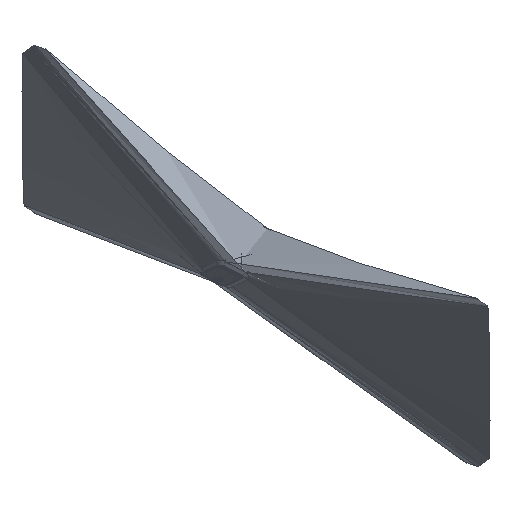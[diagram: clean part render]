
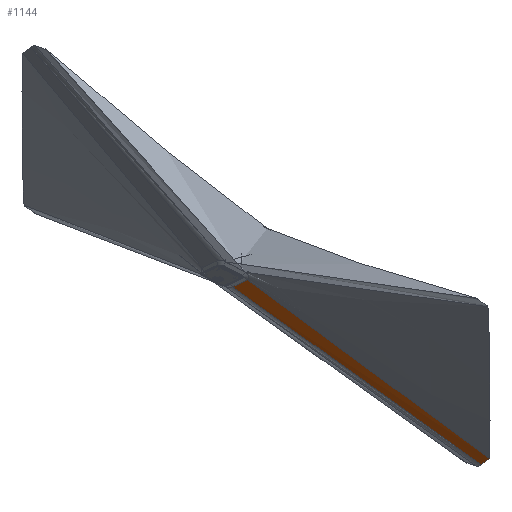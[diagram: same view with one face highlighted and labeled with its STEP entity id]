
A CAD part, isometric view. The second image highlights one B-rep face of the part: STEP entity #1144.
In plain terms, the highlighted free-form (B-spline) face has degree [5, 1] with [9, 2] control points.
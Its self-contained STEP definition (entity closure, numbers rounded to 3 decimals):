
#445=CARTESIAN_POINT('Vertex',(25.,-145.838,40.164)) ;
#723=CARTESIAN_POINT('Control Point',(25.,-145.838,40.164)) ;
#724=CARTESIAN_POINT('Control Point',(224.,-1496.487,-377.555)) ;
#725=CARTESIAN_POINT('Vertex',(224.,-1496.487,-377.555)) ;
#1017=CARTESIAN_POINT('Vertex',(25.,-50.449,-47.244)) ;
#1021=CARTESIAN_POINT('Control Point',(25.,-50.449,-47.244)) ;
#1022=CARTESIAN_POINT('Control Point',(25.,-70.352,-29.006)) ;
#1023=CARTESIAN_POINT('Control Point',(25.,-86.514,-14.196)) ;
#1024=CARTESIAN_POINT('Control Point',(25.,-107.816,5.323)) ;
#1025=CARTESIAN_POINT('Control Point',(25.,-121.463,17.829)) ;
#1026=CARTESIAN_POINT('Control Point',(25.,-145.838,40.164)) ;
#1076=CARTESIAN_POINT('Control Point',(25.,-145.838,40.164)) ;
#1077=CARTESIAN_POINT('Control Point',(447.691,-3014.715,-847.102)) ;
#1078=CARTESIAN_POINT('Control Point',(25.,-140.287,35.078)) ;
#1079=CARTESIAN_POINT('Control Point',(447.466,-3013.117,-852.902)) ;
#1080=CARTESIAN_POINT('Control Point',(25.,-133.08,28.474)) ;
#1081=CARTESIAN_POINT('Control Point',(447.362,-3012.376,-855.536)) ;
#1082=CARTESIAN_POINT('Control Point',(25.,-127.304,23.181)) ;
#1083=CARTESIAN_POINT('Control Point',(447.312,-3012.018,-856.831)) ;
#1084=CARTESIAN_POINT('Control Point',(25.,-107.72,5.236)) ;
#1085=CARTESIAN_POINT('Control Point',(447.119,-3010.648,-861.734)) ;
#1086=CARTESIAN_POINT('Control Point',(25.,-84.399,-16.134)) ;
#1087=CARTESIAN_POINT('Control Point',(446.926,-3009.278,-866.599)) ;
#1088=CARTESIAN_POINT('Control Point',(25.,-77.705,-22.268)) ;
#1089=CARTESIAN_POINT('Control Point',(446.852,-3008.746,-868.471)) ;
#1090=CARTESIAN_POINT('Control Point',(25.,-64.004,-34.823)) ;
#1091=CARTESIAN_POINT('Control Point',(446.749,-3008.013,-871.073)) ;
#1092=CARTESIAN_POINT('Control Point',(25.,-50.449,-47.244)) ;
#1093=CARTESIAN_POINT('Control Point',(446.552,-3006.615,-875.966)) ;
#1095=CARTESIAN_POINT('Control Point',(25.,-50.449,-47.244)) ;
#1096=CARTESIAN_POINT('Control Point',(224.,-1445.951,-438.454)) ;
#1097=CARTESIAN_POINT('Vertex',(224.,-1445.951,-438.454)) ;
#1101=CARTESIAN_POINT('Control Point',(224.,-1496.487,-377.555)) ;
#1102=CARTESIAN_POINT('Control Point',(224.,-1495.883,-378.702)) ;
#1103=CARTESIAN_POINT('Control Point',(224.,-1495.241,-379.821)) ;
#1104=CARTESIAN_POINT('Control Point',(224.,-1494.571,-380.912)) ;
#1105=CARTESIAN_POINT('Control Point',(224.,-1493.089,-383.189)) ;
#1106=CARTESIAN_POINT('Control Point',(224.,-1491.54,-385.334)) ;
#1107=CARTESIAN_POINT('Control Point',(224.,-1490.702,-386.443)) ;
#1108=CARTESIAN_POINT('Control Point',(224.,-1488.686,-389.016)) ;
#1109=CARTESIAN_POINT('Control Point',(224.,-1486.639,-391.459)) ;
#1110=CARTESIAN_POINT('Control Point',(224.,-1485.444,-392.852)) ;
#1111=CARTESIAN_POINT('Control Point',(224.,-1483.545,-395.045)) ;
#1112=CARTESIAN_POINT('Control Point',(224.,-1481.604,-397.269)) ;
#1113=CARTESIAN_POINT('Control Point',(224.,-1480.893,-398.082)) ;
#1114=CARTESIAN_POINT('Control Point',(224.,-1479.782,-399.352)) ;
#1115=CARTESIAN_POINT('Control Point',(224.,-1478.658,-400.632)) ;
#1116=CARTESIAN_POINT('Control Point',(224.,-1478.255,-401.091)) ;
#1117=CARTESIAN_POINT('Control Point',(224.,-1477.454,-402.002)) ;
#1118=CARTESIAN_POINT('Control Point',(224.,-1476.651,-402.912)) ;
#1119=CARTESIAN_POINT('Control Point',(224.,-1476.25,-403.367)) ;
#1120=CARTESIAN_POINT('Control Point',(224.,-1474.556,-405.287)) ;
#1121=CARTESIAN_POINT('Control Point',(224.,-1472.876,-407.187)) ;
#1122=CARTESIAN_POINT('Control Point',(224.,-1471.61,-408.619)) ;
#1123=CARTESIAN_POINT('Control Point',(224.,-1469.005,-411.565)) ;
#1124=CARTESIAN_POINT('Control Point',(224.,-1466.499,-414.402)) ;
#1125=CARTESIAN_POINT('Control Point',(224.,-1465.22,-415.851)) ;
#1126=CARTESIAN_POINT('Control Point',(224.,-1463.146,-418.205)) ;
#1127=CARTESIAN_POINT('Control Point',(224.,-1461.098,-420.538)) ;
#1128=CARTESIAN_POINT('Control Point',(224.,-1460.298,-421.451)) ;
#1129=CARTESIAN_POINT('Control Point',(224.,-1458.416,-423.604)) ;
#1130=CARTESIAN_POINT('Control Point',(224.,-1456.511,-425.798)) ;
#1131=CARTESIAN_POINT('Control Point',(224.,-1455.406,-427.078)) ;
#1132=CARTESIAN_POINT('Control Point',(224.,-1452.895,-430.005)) ;
#1133=CARTESIAN_POINT('Control Point',(224.,-1450.308,-433.083)) ;
#1134=CARTESIAN_POINT('Control Point',(224.,-1448.858,-434.832)) ;
#1135=CARTESIAN_POINT('Control Point',(224.,-1447.398,-436.627)) ;
#1136=CARTESIAN_POINT('Control Point',(224.,-1445.951,-438.454)) ;
#1139=ORIENTED_EDGE('',*,*,#727,.F.) ;
#1140=ORIENTED_EDGE('',*,*,#1027,.T.) ;
#1141=ORIENTED_EDGE('',*,*,#1099,.T.) ;
#1142=ORIENTED_EDGE('',*,*,#1137,.F.) ;
#1144=ADVANCED_FACE('Geometric Visibility Cone / LH / Directional Indicator',(#1143),#1075,.T.) ;
#722=B_SPLINE_CURVE_WITH_KNOTS('',1,(#723,#724),.UNSPECIFIED.,.F.,.U.,(2,2),(0.,1477.419),.UNSPECIFIED.) ;
#1020=B_SPLINE_CURVE_WITH_KNOTS('',5,(#1021,#1022,#1023,#1024,#1025,#1026),.UNSPECIFIED.,.F.,.U.,(6,6),(0.,123.693),.UNSPECIFIED.) ;
#1094=B_SPLINE_CURVE_WITH_KNOTS('',1,(#1095,#1096),.UNSPECIFIED.,.F.,.U.,(2,2),(0.,1481.408),.UNSPECIFIED.) ;
#1100=B_SPLINE_CURVE_WITH_KNOTS('',5,(#1101,#1102,#1103,#1104,#1105,#1106,#1107,#1108,#1109,#1110,#1111,#1112,#1113,#1114,#1115,#1116,#1117,#1118,#1119,#1120,#1121,#1122,#1123,#1124,#1125,#1126,#1127,#1128,#1129,#1130,#1131,#1132,#1133,#1134,#1135,#1136),.UNSPECIFIED.,.F.,.U.,(6,3,3,3,3,3,3,3,3,3,3,6),(0.,9.516,20.434,35.55,44.165,48.9,53.643,68.939,85.708,96.497,111.022,128.963),.UNSPECIFIED.) ;
#1075=B_SPLINE_SURFACE_WITH_KNOTS('',5,1,((#1076,#1077),(#1078,#1079),(#1080,#1081),(#1082,#1083),(#1084,#1085),(#1086,#1087),(#1088,#1089),(#1090,#1091),(#1092,#1093)),.UNSPECIFIED.,.F.,.F.,.U.,(6,3,6),(2,2),(0.,34.082,101.53),(0.,3138.145),.UNSPECIFIED.) ;
#727=EDGE_CURVE('',#446,#726,#722,.T.) ;
#1027=EDGE_CURVE('',#446,#1018,#1020,.F.) ;
#1099=EDGE_CURVE('',#1018,#1098,#1094,.T.) ;
#1137=EDGE_CURVE('',#726,#1098,#1100,.T.) ;
#1138=EDGE_LOOP('',(#1139,#1140,#1141,#1142)) ;
#1143=FACE_OUTER_BOUND('',#1138,.T.) ;
#446=VERTEX_POINT('',#445) ;
#726=VERTEX_POINT('',#725) ;
#1018=VERTEX_POINT('',#1017) ;
#1098=VERTEX_POINT('',#1097) ;
